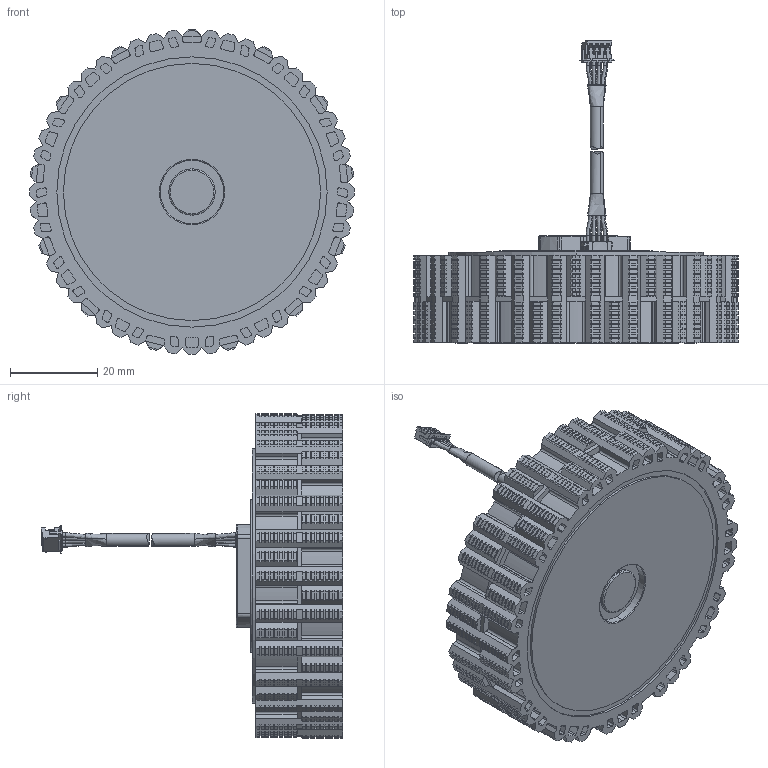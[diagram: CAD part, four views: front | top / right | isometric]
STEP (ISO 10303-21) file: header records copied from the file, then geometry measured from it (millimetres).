
FILE_DESCRIPTION (( 'STEP AP203' ), '1' );
FILE_NAME ('M0603B 軞蚾.STEP', '2024-12-13T11:02:47', ( '' ), ( '' ), 'SwSTEP 2.0', 'SolidWorks 2022', '' );
FILE_SCHEMA (( 'CONFIG_CONTROL_DESIGN' ));
Products named in the file (1): M0603B 軞蚾
Bounding box: 74.5 x 69.25 x 74.5 mm (x, y, z)
Volume: 79434.3 mm3; surface area: 24346.8 mm2
Topology: 12 solids, 12 shells, 4519 faces, 13065 edges, 8657 vertices
Faces by surface type: plane 2240, cylinder 2197, bspline 40, torus 39, cone 3
Entity records: 154112 total; most frequent: CARTESIAN_POINT 31344, DIRECTION 26238, ORIENTED_EDGE 26130, EDGE_CURVE 13065, AXIS2_PLACEMENT_3D 8948, VERTEX_POINT 8657, VECTOR 8342, LINE 8342
